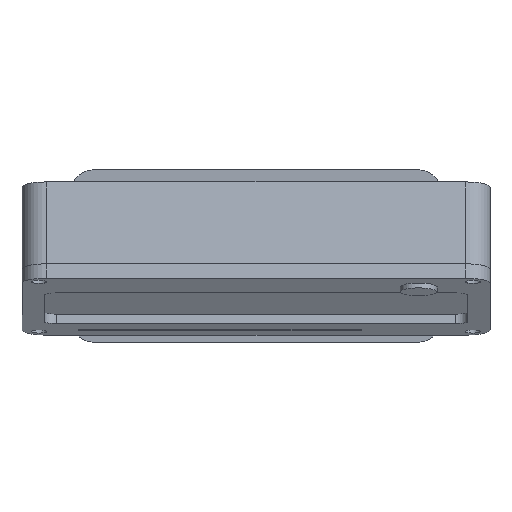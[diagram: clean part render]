
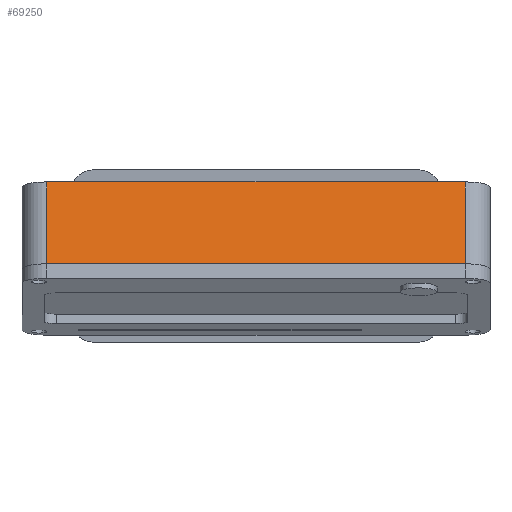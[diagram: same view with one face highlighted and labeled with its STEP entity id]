
A CAD part, top view. The second image highlights one B-rep face of the part: STEP entity #69250.
In plain terms, the highlighted planar face has unit normal (0, 0.208, 0.978).
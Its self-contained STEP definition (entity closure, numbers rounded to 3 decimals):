
#98 = PLANE('',#99);
#99 = AXIS2_PLACEMENT_3D('',#100,#101,#102);
#100 = CARTESIAN_POINT('',(0.,-9.257,14.069));
#101 = DIRECTION('',(0.,-0.978,0.208));
#102 = DIRECTION('',(1.,0.,0.));
#154 = PLANE('',#155);
#155 = AXIS2_PLACEMENT_3D('',#156,#157,#158);
#156 = CARTESIAN_POINT('',(0.,24.,7.));
#157 = DIRECTION('',(0.,-0.978,0.208));
#158 = DIRECTION('',(1.,0.,0.));
#180 = CYLINDRICAL_SURFACE('',#181,10.);
#181 = AXIS2_PLACEMENT_3D('',#182,#183,#184);
#182 = CARTESIAN_POINT('',(10.,44.791,104.815));
#183 = DIRECTION('',(0.,-0.978,0.208));
#184 = DIRECTION('',(-1.,-0.,0.));
#10480 = VERTEX_POINT('',#10481);
#10481 = CARTESIAN_POINT('',(180.,13.613,121.665));
#10496 = CYLINDRICAL_SURFACE('',#10497,10.);
#10497 = AXIS2_PLACEMENT_3D('',#10498,#10499,#10500);
#10498 = CARTESIAN_POINT('',(180.,44.791,104.815));
#10499 = DIRECTION('',(0.,-0.978,0.208));
#10500 = DIRECTION('',(1.,0.,0.));
#10508 = EDGE_CURVE('',#10509,#10480,#10511,.T.);
#10509 = VERTEX_POINT('',#10510);
#10510 = CARTESIAN_POINT('',(10.,13.613,121.665));
#10511 = SURFACE_CURVE('',#10512,(#10516,#10523),.PCURVE_S1.);
#10512 = LINE('',#10513,#10514);
#10513 = CARTESIAN_POINT('',(0.,13.613,121.665));
#10514 = VECTOR('',#10515,1.);
#10515 = DIRECTION('',(1.,0.,0.));
#10516 = PCURVE('',#98,#10517);
#10517 = DEFINITIONAL_REPRESENTATION('',(#10518),#10522);
#10518 = LINE('',#10519,#10520);
#10519 = CARTESIAN_POINT('',(0.,110.));
#10520 = VECTOR('',#10521,1.);
#10521 = DIRECTION('',(1.,0.));
#10522 = ( GEOMETRIC_REPRESENTATION_CONTEXT(2) 
PARAMETRIC_REPRESENTATION_CONTEXT() REPRESENTATION_CONTEXT('2D SPACE',''
  ) );
#10523 = PCURVE('',#10524,#10529);
#10524 = PLANE('',#10525);
#10525 = AXIS2_PLACEMENT_3D('',#10526,#10527,#10528);
#10526 = CARTESIAN_POINT('',(0.,46.87,114.596));
#10527 = DIRECTION('',(0.,0.208,0.978));
#10528 = DIRECTION('',(0.,-0.978,0.208));
#10529 = DEFINITIONAL_REPRESENTATION('',(#10530),#10534);
#10530 = LINE('',#10531,#10532);
#10531 = CARTESIAN_POINT('',(34.,0.));
#10532 = VECTOR('',#10533,1.);
#10533 = DIRECTION('',(0.,1.));
#10534 = ( GEOMETRIC_REPRESENTATION_CONTEXT(2) 
PARAMETRIC_REPRESENTATION_CONTEXT() REPRESENTATION_CONTEXT('2D SPACE',''
  ) );
#11218 = VERTEX_POINT('',#11219);
#11219 = CARTESIAN_POINT('',(10.,46.87,114.596));
#11245 = EDGE_CURVE('',#11218,#10509,#11246,.T.);
#11246 = SURFACE_CURVE('',#11247,(#11251,#11258),.PCURVE_S1.);
#11247 = LINE('',#11248,#11249);
#11248 = CARTESIAN_POINT('',(10.,46.87,114.596));
#11249 = VECTOR('',#11250,1.);
#11250 = DIRECTION('',(0.,-0.978,0.208));
#11251 = PCURVE('',#180,#11252);
#11252 = DEFINITIONAL_REPRESENTATION('',(#11253),#11257);
#11253 = LINE('',#11254,#11255);
#11254 = CARTESIAN_POINT('',(-1.571,0.));
#11255 = VECTOR('',#11256,1.);
#11256 = DIRECTION('',(-0.,1.));
#11257 = ( GEOMETRIC_REPRESENTATION_CONTEXT(2) 
PARAMETRIC_REPRESENTATION_CONTEXT() REPRESENTATION_CONTEXT('2D SPACE',''
  ) );
#11258 = PCURVE('',#10524,#11259);
#11259 = DEFINITIONAL_REPRESENTATION('',(#11260),#11264);
#11260 = LINE('',#11261,#11262);
#11261 = CARTESIAN_POINT('',(0.,10.));
#11262 = VECTOR('',#11263,1.);
#11263 = DIRECTION('',(1.,0.));
#11264 = ( GEOMETRIC_REPRESENTATION_CONTEXT(2) 
PARAMETRIC_REPRESENTATION_CONTEXT() REPRESENTATION_CONTEXT('2D SPACE',''
  ) );
#11348 = VERTEX_POINT('',#11349);
#11349 = CARTESIAN_POINT('',(180.,46.87,114.596));
#11371 = EDGE_CURVE('',#11218,#11348,#11372,.T.);
#11372 = SURFACE_CURVE('',#11373,(#11377,#11384),.PCURVE_S1.);
#11373 = LINE('',#11374,#11375);
#11374 = CARTESIAN_POINT('',(0.,46.87,114.596));
#11375 = VECTOR('',#11376,1.);
#11376 = DIRECTION('',(1.,0.,0.));
#11377 = PCURVE('',#154,#11378);
#11378 = DEFINITIONAL_REPRESENTATION('',(#11379),#11383);
#11379 = LINE('',#11380,#11381);
#11380 = CARTESIAN_POINT('',(0.,110.));
#11381 = VECTOR('',#11382,1.);
#11382 = DIRECTION('',(1.,0.));
#11383 = ( GEOMETRIC_REPRESENTATION_CONTEXT(2) 
PARAMETRIC_REPRESENTATION_CONTEXT() REPRESENTATION_CONTEXT('2D SPACE',''
  ) );
#11384 = PCURVE('',#10524,#11385);
#11385 = DEFINITIONAL_REPRESENTATION('',(#11386),#11390);
#11386 = LINE('',#11387,#11388);
#11387 = CARTESIAN_POINT('',(0.,0.));
#11388 = VECTOR('',#11389,1.);
#11389 = DIRECTION('',(0.,1.));
#11390 = ( GEOMETRIC_REPRESENTATION_CONTEXT(2) 
PARAMETRIC_REPRESENTATION_CONTEXT() REPRESENTATION_CONTEXT('2D SPACE',''
  ) );
#69250 = ADVANCED_FACE('',(#69251),#10524,.T.);
#69251 = FACE_BOUND('',#69252,.T.);
#69252 = EDGE_LOOP('',(#69253,#69254,#69255,#69256));
#69253 = ORIENTED_EDGE('',*,*,#11371,.F.);
#69254 = ORIENTED_EDGE('',*,*,#11245,.T.);
#69255 = ORIENTED_EDGE('',*,*,#10508,.T.);
#69256 = ORIENTED_EDGE('',*,*,#69257,.F.);
#69257 = EDGE_CURVE('',#11348,#10480,#69258,.T.);
#69258 = SURFACE_CURVE('',#69259,(#69263,#69270),.PCURVE_S1.);
#69259 = LINE('',#69260,#69261);
#69260 = CARTESIAN_POINT('',(180.,46.87,114.596));
#69261 = VECTOR('',#69262,1.);
#69262 = DIRECTION('',(0.,-0.978,0.208));
#69263 = PCURVE('',#10524,#69264);
#69264 = DEFINITIONAL_REPRESENTATION('',(#69265),#69269);
#69265 = LINE('',#69266,#69267);
#69266 = CARTESIAN_POINT('',(0.,180.));
#69267 = VECTOR('',#69268,1.);
#69268 = DIRECTION('',(1.,0.));
#69269 = ( GEOMETRIC_REPRESENTATION_CONTEXT(2) 
PARAMETRIC_REPRESENTATION_CONTEXT() REPRESENTATION_CONTEXT('2D SPACE',''
  ) );
#69270 = PCURVE('',#10496,#69271);
#69271 = DEFINITIONAL_REPRESENTATION('',(#69272),#69276);
#69272 = LINE('',#69273,#69274);
#69273 = CARTESIAN_POINT('',(1.571,0.));
#69274 = VECTOR('',#69275,1.);
#69275 = DIRECTION('',(0.,1.));
#69276 = ( GEOMETRIC_REPRESENTATION_CONTEXT(2) 
PARAMETRIC_REPRESENTATION_CONTEXT() REPRESENTATION_CONTEXT('2D SPACE',''
  ) );
